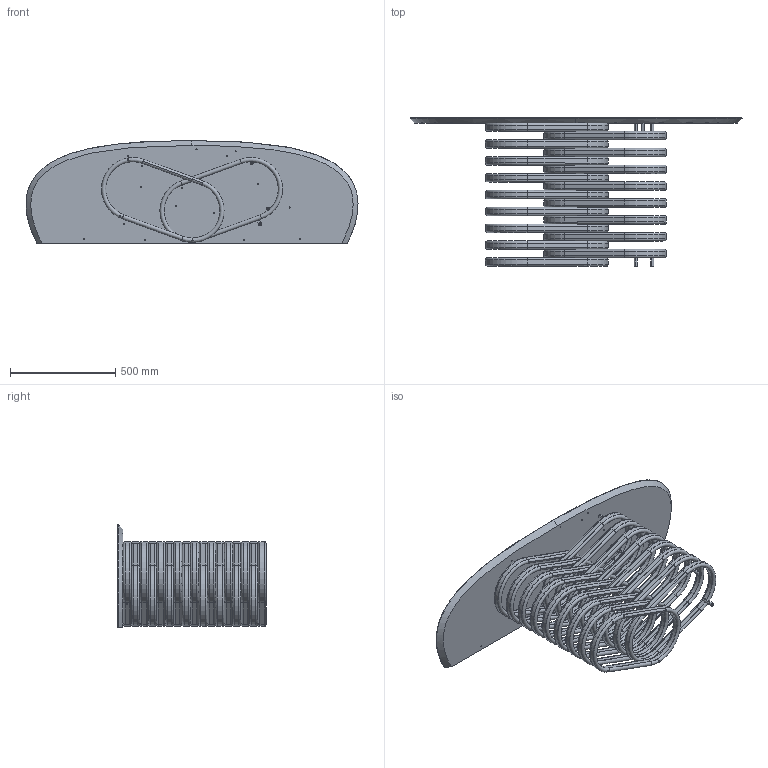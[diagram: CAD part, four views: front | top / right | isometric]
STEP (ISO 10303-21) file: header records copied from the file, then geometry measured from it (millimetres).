
FILE_DESCRIPTION (( 'STEP AP203' ), '1' );
FILE_NAME ('RO60M.STEP', '2024-08-06T10:01:04', ( '' ), ( '' ), 'SwSTEP 2.0', 'SolidWorks 2022', '' );
FILE_SCHEMA (( 'CONFIG_CONTROL_DESIGN' ));
Length unit declared in the file: millimetre
Products named in the file (10): ROC000000-00-CONSOLLE ROTOLO BASE STRUTTURA; RO60M; ROC000000_01-00-anello rotolo console SOPRA_Default<A macchina>; TRUXXXX-02-NOBILITATO Sasso per console_160x50; ROC000000_0X-00-anello rotolo console CIlindri SUP_INF_INFERIORE<A macchina>; ROC000000_03-00-anello rotolo console MEDIO_Default<A macchina>; ROC000000_02-00-anello rotolo console SOTTO_Default<A macchina>; KXXXX-00-piani MARMO Sasso per console_160X50; ROC000000_0X-00-anello rotolo console CIlindri SUP_INF_SUPERIORE; ROC000001PSx-00-CONSOLEE ROTOLO PIASTRA FISSAGGIO_STAFFA LUNGA
Assembly tree (21 placements, depth 3):
  RO60M
    KXXXX-00-piani MARMO Sasso per console_160X50
      TRUXXXX-02-NOBILITATO Sasso per console_160x50
    ROC000000-00-CONSOLLE ROTOLO BASE STRUTTURA
      ROC000000_02-00-anello rotolo console SOTTO_Default<A macchina>
      ROC000000_03-00-anello rotolo console MEDIO_Default<A macchina>  x13
      ROC000000_01-00-anello rotolo console SOPRA_Default<A macchina>
      ROC000000_0X-00-anello rotolo console CIlindri SUP_INF_INFERIORE<A macchina>
      ROC000000_0X-00-anello rotolo console CIlindri SUP_INF_SUPERIORE
    ROC000001PSx-00-CONSOLEE ROTOLO PIASTRA FISSAGGIO_STAFFA LUNGA
Bounding box: 1575.75 x 705 x 488 mm (x, y, z)
Volume: 21558410.4 mm3; surface area: 6347214 mm2
Topology: 74 solids, 74 shells, 865 faces, 2104 edges, 1363 vertices
Faces by surface type: cylinder 384, plane 297, torus 136, cone 44, bspline 4
Entity records: 14019 total; most frequent: CARTESIAN_POINT 3949, DIRECTION 1969, ORIENTED_EDGE 1672, EDGE_CURVE 836, AXIS2_PLACEMENT_3D 781, VERTEX_POINT 547, EDGE_LOOP 437, LINE 407
